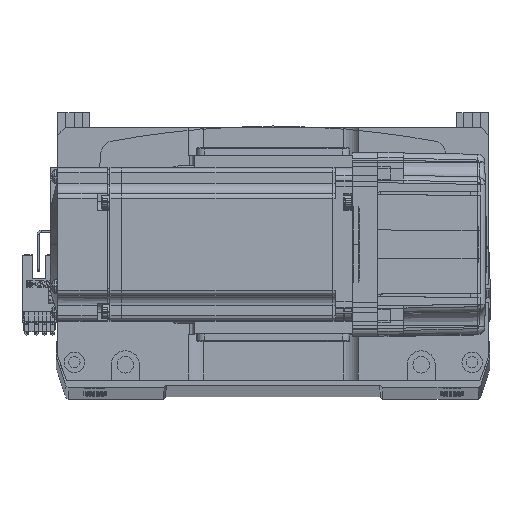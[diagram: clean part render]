
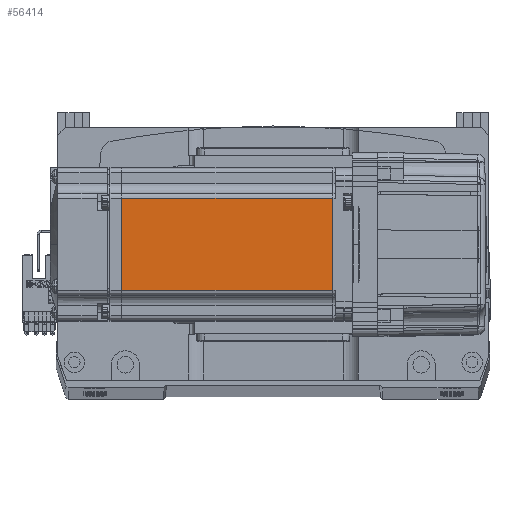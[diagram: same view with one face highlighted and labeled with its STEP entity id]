
A CAD part, top view. The second image highlights one B-rep face of the part: STEP entity #56414.
In plain terms, the highlighted planar face has unit normal (0, 0, 1).
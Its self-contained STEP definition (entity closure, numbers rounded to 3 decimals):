
#1355 = EDGE_LOOP ( 'NONE', ( #66232, #9644, #36184, #59270 ) ) ;
#2311 = EDGE_CURVE ( 'NONE', #5872, #19352, #54726, .T. ) ;
#2759 = VECTOR ( 'NONE', #22399, 1000. ) ;
#5872 = VERTEX_POINT ( 'NONE', #32733 ) ;
#8590 = PLANE ( 'NONE',  #28688 ) ;
#9644 = ORIENTED_EDGE ( 'NONE', *, *, #53954, .T. ) ;
#13136 = EDGE_CURVE ( 'NONE', #19352, #54699, #45385, .T. ) ;
#13496 = DIRECTION ( 'NONE',  ( 1., 0., 0. ) ) ;
#14843 = LINE ( 'NONE', #45763, #42467 ) ;
#19352 = VERTEX_POINT ( 'NONE', #44179 ) ;
#22399 = DIRECTION ( 'NONE',  ( -1., 0., 0. ) ) ;
#27057 = DIRECTION ( 'NONE',  ( 0., -1., 0. ) ) ;
#28688 = AXIS2_PLACEMENT_3D ( 'NONE', #67735, #35676, #13496 ) ;
#32401 = LINE ( 'NONE', #66389, #57549 ) ;
#32733 = CARTESIAN_POINT ( 'NONE',  ( -7.75, 18., 30. ) ) ;
#34786 = DIRECTION ( 'NONE',  ( 0., -1., 0. ) ) ;
#35676 = DIRECTION ( 'NONE',  ( 0., 0., 1. ) ) ;
#36184 = ORIENTED_EDGE ( 'NONE', *, *, #67456, .T. ) ;
#37441 = CARTESIAN_POINT ( 'NONE',  ( -90.45, -18., 30. ) ) ;
#42467 = VECTOR ( 'NONE', #45521, 1000. ) ;
#44179 = CARTESIAN_POINT ( 'NONE',  ( -7.75, -18., 30. ) ) ;
#45385 = LINE ( 'NONE', #59590, #2759 ) ;
#45521 = DIRECTION ( 'NONE',  ( -1., 0., 0. ) ) ;
#45763 = CARTESIAN_POINT ( 'NONE',  ( -6.5, 18., 30. ) ) ;
#46324 = VECTOR ( 'NONE', #27057, 1000. ) ;
#48627 = VERTEX_POINT ( 'NONE', #62708 ) ;
#53954 = EDGE_CURVE ( 'NONE', #5872, #48627, #14843, .T. ) ;
#54699 = VERTEX_POINT ( 'NONE', #37441 ) ;
#54726 = LINE ( 'NONE', #65385, #46324 ) ;
#56414 = ADVANCED_FACE ( 'NONE', ( #58806 ), #8590, .T. ) ;
#57549 = VECTOR ( 'NONE', #34786, 1000. ) ;
#58806 = FACE_OUTER_BOUND ( 'NONE', #1355, .T. ) ;
#59270 = ORIENTED_EDGE ( 'NONE', *, *, #13136, .F. ) ;
#59590 = CARTESIAN_POINT ( 'NONE',  ( -6.5, -18., 30. ) ) ;
#62708 = CARTESIAN_POINT ( 'NONE',  ( -90.45, 18., 30. ) ) ;
#65385 = CARTESIAN_POINT ( 'NONE',  ( -7.75, 0., 30. ) ) ;
#66232 = ORIENTED_EDGE ( 'NONE', *, *, #2311, .F. ) ;
#66389 = CARTESIAN_POINT ( 'NONE',  ( -90.45, 0., 30. ) ) ;
#67456 = EDGE_CURVE ( 'NONE', #48627, #54699, #32401, .T. ) ;
#67735 = CARTESIAN_POINT ( 'NONE',  ( -6.5, -25., 30. ) ) ;
